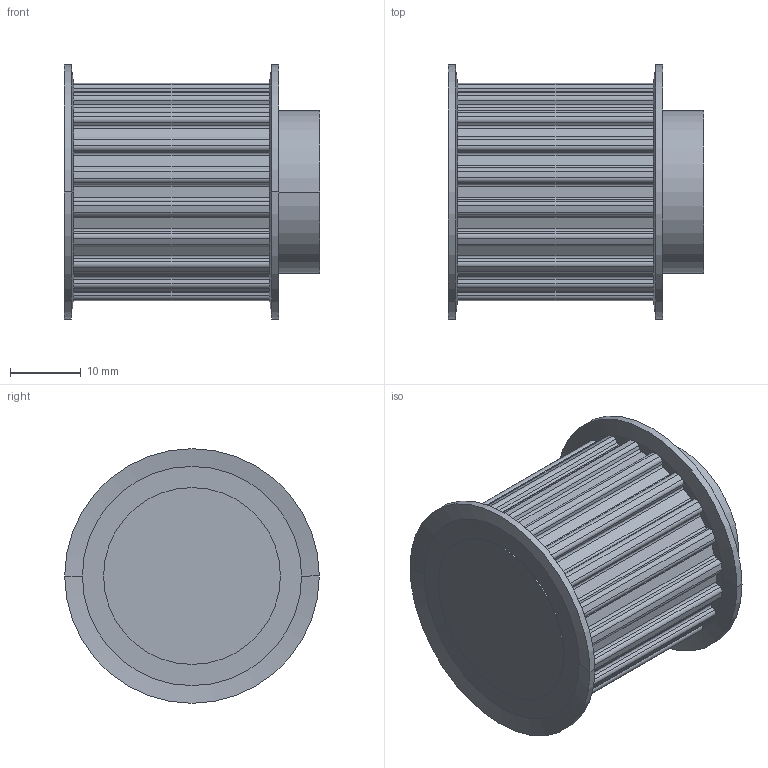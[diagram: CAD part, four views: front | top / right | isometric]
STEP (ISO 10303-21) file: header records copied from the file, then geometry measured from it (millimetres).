
FILE_DESCRIPTION( ( '' ), '1' );
FILE_NAME( 'C:/Users/Stangenbergd/Documents/CAD_Step/1/16242000.stp', '2021-10-19T08:45:45', ( '' ), ( '' ), ' ', ' ', ' ' );
FILE_SCHEMA( ( 'CONFIG_CONTROL_DESIGN' ) );
Length unit declared in the file: millimetre
Products named in the file (1): 1
Bounding box: 36.2 x 36 x 36 mm (x, y, z)
Volume: 23806 mm3; surface area: 6754.3 mm2
Topology: 1 solids, 1 shells, 185 faces, 526 edges, 348 vertices
Faces by surface type: cylinder 110, plane 67, cone 8
Entity records: 6148 total; most frequent: DIRECTION 1126, CARTESIAN_POINT 1060, ORIENTED_EDGE 1052, EDGE_CURVE 526, AXIS2_PLACEMENT_3D 414, VERTEX_POINT 348, LINE 298, VECTOR 298
